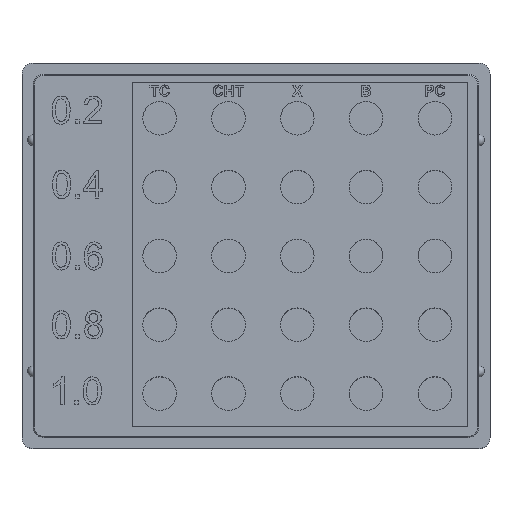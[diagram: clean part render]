
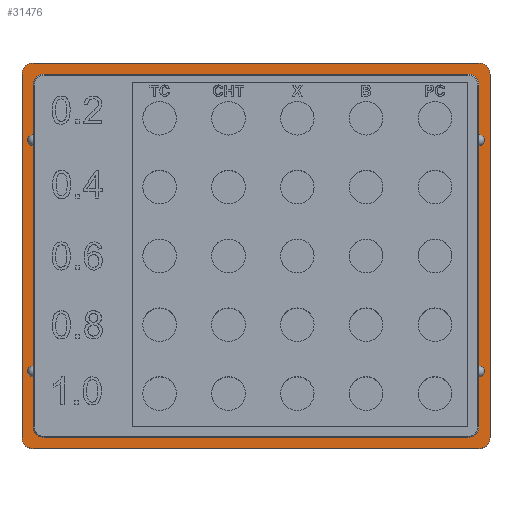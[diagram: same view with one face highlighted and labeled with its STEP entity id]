
A CAD part, top view. The second image highlights one B-rep face of the part: STEP entity #31476.
In plain terms, the highlighted planar face has unit normal (0, 0, 1).
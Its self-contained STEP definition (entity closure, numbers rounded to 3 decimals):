
#2778=FACE_BOUND('',#6394,.T.);
#2846=CIRCLE('',#32295,2.);
#2847=CIRCLE('',#32298,2.);
#2852=CIRCLE('',#32313,2.);
#2853=CIRCLE('',#32316,2.);
#2854=CIRCLE('',#32321,2.);
#2855=CIRCLE('',#32323,2.);
#2856=CIRCLE('',#32326,2.);
#2857=CIRCLE('',#32328,2.);
#4565=FACE_OUTER_BOUND('',#6393,.T.);
#6393=EDGE_LOOP('',(#28077,#28078,#28079,#28080,#28081,#28082,#28083,#28084));
#6394=EDGE_LOOP('',(#28085,#28086,#28087,#28088,#28089,#28090,#28091,#28092));
#8814=LINE('',#57781,#11239);
#8817=LINE('',#57789,#11242);
#8833=LINE('',#57831,#11258);
#8836=LINE('',#57839,#11261);
#8837=LINE('',#57843,#11262);
#8841=LINE('',#57854,#11266);
#8843=LINE('',#57861,#11268);
#8844=LINE('',#57864,#11269);
#11239=VECTOR('',#35577,10.);
#11242=VECTOR('',#35586,10.);
#11258=VECTOR('',#35632,10.);
#11261=VECTOR('',#35641,10.);
#11262=VECTOR('',#35646,10.);
#11266=VECTOR('',#35660,10.);
#11268=VECTOR('',#35668,10.);
#11269=VECTOR('',#35671,10.);
#14922=VERTEX_POINT('',#57773);
#14923=VERTEX_POINT('',#57775);
#14924=VERTEX_POINT('',#57779);
#14925=VERTEX_POINT('',#57783);
#14926=VERTEX_POINT('',#57787);
#14935=VERTEX_POINT('',#57823);
#14936=VERTEX_POINT('',#57825);
#14937=VERTEX_POINT('',#57829);
#14938=VERTEX_POINT('',#57833);
#14939=VERTEX_POINT('',#57837);
#14940=VERTEX_POINT('',#57842);
#14941=VERTEX_POINT('',#57846);
#14942=VERTEX_POINT('',#57850);
#14943=VERTEX_POINT('',#57856);
#14944=VERTEX_POINT('',#57860);
#14945=VERTEX_POINT('',#57862);
#19395=EDGE_CURVE('',#14922,#14923,#2846,.F.);
#19398=EDGE_CURVE('',#14924,#14922,#8814,.T.);
#19400=EDGE_CURVE('',#14925,#14924,#2847,.F.);
#19402=EDGE_CURVE('',#14926,#14925,#8817,.T.);
#19420=EDGE_CURVE('',#14935,#14936,#2852,.T.);
#19423=EDGE_CURVE('',#14935,#14937,#8833,.T.);
#19425=EDGE_CURVE('',#14938,#14937,#2853,.T.);
#19427=EDGE_CURVE('',#14938,#14939,#8836,.T.);
#19428=EDGE_CURVE('',#14923,#14940,#8837,.T.);
#19430=EDGE_CURVE('',#14940,#14941,#2854,.F.);
#19433=EDGE_CURVE('',#14942,#14926,#2855,.F.);
#19434=EDGE_CURVE('',#14941,#14942,#8841,.T.);
#19436=EDGE_CURVE('',#14943,#14939,#2856,.T.);
#19437=EDGE_CURVE('',#14943,#14944,#8843,.T.);
#19438=EDGE_CURVE('',#14945,#14944,#2857,.T.);
#19439=EDGE_CURVE('',#14945,#14936,#8844,.T.);
#28077=ORIENTED_EDGE('',*,*,#19436,.F.);
#28078=ORIENTED_EDGE('',*,*,#19437,.T.);
#28079=ORIENTED_EDGE('',*,*,#19438,.F.);
#28080=ORIENTED_EDGE('',*,*,#19439,.T.);
#28081=ORIENTED_EDGE('',*,*,#19420,.F.);
#28082=ORIENTED_EDGE('',*,*,#19423,.T.);
#28083=ORIENTED_EDGE('',*,*,#19425,.F.);
#28084=ORIENTED_EDGE('',*,*,#19427,.T.);
#28085=ORIENTED_EDGE('',*,*,#19398,.F.);
#28086=ORIENTED_EDGE('',*,*,#19400,.F.);
#28087=ORIENTED_EDGE('',*,*,#19402,.F.);
#28088=ORIENTED_EDGE('',*,*,#19433,.F.);
#28089=ORIENTED_EDGE('',*,*,#19434,.F.);
#28090=ORIENTED_EDGE('',*,*,#19430,.F.);
#28091=ORIENTED_EDGE('',*,*,#19428,.F.);
#28092=ORIENTED_EDGE('',*,*,#19395,.F.);
#29965=PLANE('',#32327);
#31476=ADVANCED_FACE('',(#4565,#2778),#29965,.T.);
#32295=AXIS2_PLACEMENT_3D('',#57776,#35571,#35572);
#32298=AXIS2_PLACEMENT_3D('',#57785,#35581,#35582);
#32313=AXIS2_PLACEMENT_3D('',#57826,#35626,#35627);
#32316=AXIS2_PLACEMENT_3D('',#57835,#35636,#35637);
#32321=AXIS2_PLACEMENT_3D('',#57847,#35650,#35651);
#32323=AXIS2_PLACEMENT_3D('',#57852,#35656,#35657);
#32326=AXIS2_PLACEMENT_3D('',#57858,#35664,#35665);
#32327=AXIS2_PLACEMENT_3D('',#57859,#35666,#35667);
#32328=AXIS2_PLACEMENT_3D('',#57863,#35669,#35670);
#35571=DIRECTION('center_axis',(0.,0.,-1.));
#35572=DIRECTION('ref_axis',(0.707,0.707,0.));
#35577=DIRECTION('',(0.,1.,0.));
#35581=DIRECTION('center_axis',(0.,0.,-1.));
#35582=DIRECTION('ref_axis',(0.707,-0.707,0.));
#35586=DIRECTION('',(1.,0.,0.));
#35626=DIRECTION('center_axis',(0.,0.,-1.));
#35627=DIRECTION('ref_axis',(-0.707,0.707,0.));
#35632=DIRECTION('',(0.,-1.,0.));
#35636=DIRECTION('center_axis',(0.,0.,-1.));
#35637=DIRECTION('ref_axis',(-0.707,-0.707,0.));
#35641=DIRECTION('',(1.,0.,0.));
#35646=DIRECTION('',(-1.,0.,0.));
#35650=DIRECTION('center_axis',(0.,0.,-1.));
#35651=DIRECTION('ref_axis',(-0.707,0.707,0.));
#35656=DIRECTION('center_axis',(0.,0.,-1.));
#35657=DIRECTION('ref_axis',(-0.707,-0.707,0.));
#35660=DIRECTION('',(0.,-1.,0.));
#35664=DIRECTION('center_axis',(0.,0.,-1.));
#35665=DIRECTION('ref_axis',(0.707,-0.707,0.));
#35666=DIRECTION('center_axis',(0.,0.,1.));
#35667=DIRECTION('ref_axis',(1.,0.,0.));
#35668=DIRECTION('',(0.,1.,0.));
#35669=DIRECTION('center_axis',(0.,0.,-1.));
#35670=DIRECTION('ref_axis',(0.707,0.707,0.));
#35671=DIRECTION('',(-1.,0.,0.));
#57773=CARTESIAN_POINT('',(58.,6.,26.));
#57775=CARTESIAN_POINT('',(56.,8.,26.));
#57776=CARTESIAN_POINT('Origin',(56.,6.,26.));
#57779=CARTESIAN_POINT('',(58.,-56.,26.));
#57781=CARTESIAN_POINT('',(58.,-41.5,26.));
#57783=CARTESIAN_POINT('',(56.,-58.,26.));
#57785=CARTESIAN_POINT('Origin',(56.,-56.,26.));
#57787=CARTESIAN_POINT('',(-21.,-58.,26.));
#57789=CARTESIAN_POINT('',(-2.75,-58.,26.));
#57823=CARTESIAN_POINT('',(-25.,8.,26.));
#57825=CARTESIAN_POINT('',(-23.,10.,26.));
#57826=CARTESIAN_POINT('Origin',(-23.,8.,26.));
#57829=CARTESIAN_POINT('',(-25.,-58.,26.));
#57831=CARTESIAN_POINT('',(-25.,-7.5,26.));
#57833=CARTESIAN_POINT('',(-23.,-60.,26.));
#57835=CARTESIAN_POINT('Origin',(-23.,-58.,26.));
#57837=CARTESIAN_POINT('',(58.,-60.,26.));
#57839=CARTESIAN_POINT('',(3.75,-60.,26.));
#57842=CARTESIAN_POINT('',(-21.,8.,26.));
#57843=CARTESIAN_POINT('',(37.75,8.,26.));
#57846=CARTESIAN_POINT('',(-23.,6.,26.));
#57847=CARTESIAN_POINT('Origin',(-21.,6.,26.));
#57850=CARTESIAN_POINT('',(-23.,-56.,26.));
#57852=CARTESIAN_POINT('Origin',(-21.,-56.,26.));
#57854=CARTESIAN_POINT('',(-23.,-8.5,26.));
#57856=CARTESIAN_POINT('',(60.,-58.,26.));
#57858=CARTESIAN_POINT('Origin',(58.,-58.,26.));
#57859=CARTESIAN_POINT('Origin',(17.5,-25.,26.));
#57860=CARTESIAN_POINT('',(60.,8.,26.));
#57861=CARTESIAN_POINT('',(60.,-42.5,26.));
#57862=CARTESIAN_POINT('',(58.,10.,26.));
#57863=CARTESIAN_POINT('Origin',(58.,8.,26.));
#57864=CARTESIAN_POINT('',(38.75,10.,26.));
